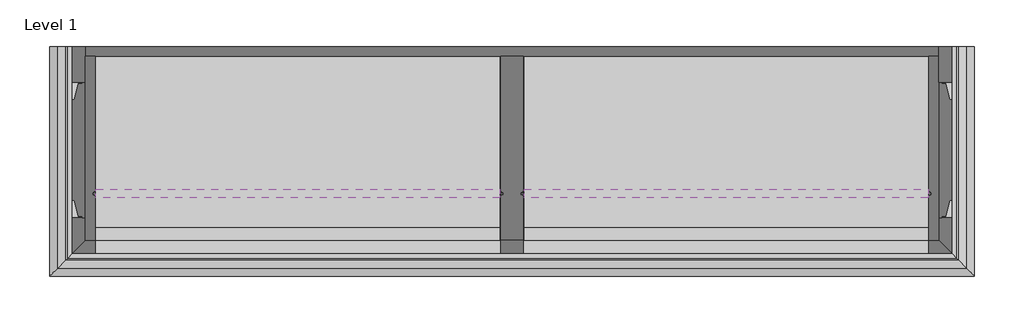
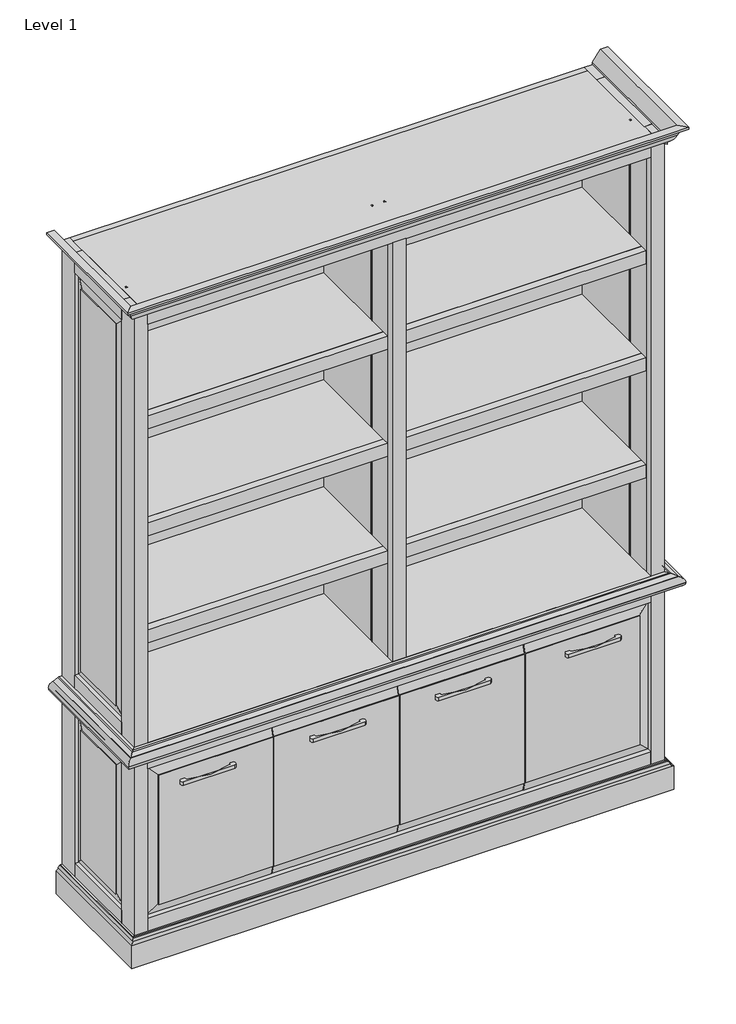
# One storey: 15 proxies.
"""IFC4 building model written with IfcOpenShell, lengths in millimetres."""

from ifc_helpers import new_model, si_unit, origin, place, context, project, spatial, transform, mapped, element, save
from components import generic_models_70161fbd, generic_models_68b85fac, generic_models_5fe2147b, generic_models_7eb4e70c

model = new_model("IFC4")

# Units and contexts
model_context = context("Model", 3, world=origin())
ifc_project = project(units=[si_unit("LENGTHUNIT", "METRE", prefix="MILLI")], contexts=[model_context])

# Site, building, storey
site = spatial("IfcSite", under=ifc_project)
building = spatial("IfcBuilding", under=site)
storey = spatial("IfcBuildingStorey", under=building, Name="Level 1", Elevation=0.0)

# Proxies
placement = place(None, origin())
generic_models_shape = generic_models_70161fbd(model_context)
element("IfcBuildingElementProxy", 1, Name="HAFELE^BUS BAR LIGHT_ALUMINUM EXTRUSION-LIGHT BAR (MOD LENGTH 31.25)", ObjectType="HAFELE^BUS BAR LIGHT_ALUMINUM EXTRUSION-LIGHT BAR (MOD LENGTH 31.25)", at=placement, inside=storey, context=model_context, shape_type="MappedRepresentation", body=[
    mapped(generic_models_shape, transform((839.7875, -297.425, 1454.15), x_axis=(0.0, 1.0, 0.0), y_axis=(-1.0, 0.0, 0.0), z_axis=(0.0, 0.0, 1.0))),
])
element("IfcBuildingElementProxy", 2, Name="HAFELE^BUS BAR LIGHT_ALUMINUM EXTRUSION-LIGHT BAR (MOD LENGTH 31.25)", ObjectType="HAFELE^BUS BAR LIGHT_ALUMINUM EXTRUSION-LIGHT BAR (MOD LENGTH 31.25)", at=placement, inside=storey, context=model_context, shape_type="MappedRepresentation", body=[
    mapped(generic_models_shape, transform((1681.1625, -297.425, 1454.15), x_axis=(0.0, 1.0, 0.0), y_axis=(-1.0, 0.0, 0.0), z_axis=(0.0, 0.0, 1.0))),
])
element("IfcBuildingElementProxy", 3, Name="HAFELE^BUS BAR LIGHT_ALUMINUM EXTRUSION-LIGHT BAR (MOD LENGTH 31.25)", ObjectType="HAFELE^BUS BAR LIGHT_ALUMINUM EXTRUSION-LIGHT BAR (MOD LENGTH 31.25)", at=placement, inside=storey, context=model_context, shape_type="MappedRepresentation", body=[
    mapped(generic_models_shape, transform((1681.1625, -297.425, 1822.45), x_axis=(0.0, 1.0, 0.0), y_axis=(-1.0, 0.0, 0.0), z_axis=(0.0, 0.0, 1.0))),
])
element("IfcBuildingElementProxy", 4, Name="HAFELE^BUS BAR LIGHT_ALUMINUM EXTRUSION-LIGHT BAR (MOD LENGTH 31.25)", ObjectType="HAFELE^BUS BAR LIGHT_ALUMINUM EXTRUSION-LIGHT BAR (MOD LENGTH 31.25)", at=placement, inside=storey, context=model_context, shape_type="MappedRepresentation", body=[
    mapped(generic_models_shape, transform((1681.1625, -297.425, 1085.85), x_axis=(0.0, 1.0, 0.0), y_axis=(-1.0, 0.0, 0.0), z_axis=(0.0, 0.0, 1.0))),
])
element("IfcBuildingElementProxy", 5, Name="HAFELE^BUS BAR LIGHT_ALUMINUM EXTRUSION-LIGHT BAR (MOD LENGTH 31.25)", ObjectType="HAFELE^BUS BAR LIGHT_ALUMINUM EXTRUSION-LIGHT BAR (MOD LENGTH 31.25)", at=placement, inside=storey, context=model_context, shape_type="MappedRepresentation", body=[
    mapped(generic_models_shape, transform((839.7875, -297.425, 1822.45), x_axis=(0.0, 1.0, 0.0), y_axis=(-1.0, 0.0, 0.0), z_axis=(0.0, 0.0, 1.0))),
])
element("IfcBuildingElementProxy", 6, Name="HAFELE^BUS BAR LIGHT_ALUMINUM EXTRUSION-LIGHT BAR (MOD LENGTH 31.25)", ObjectType="HAFELE^BUS BAR LIGHT_ALUMINUM EXTRUSION-LIGHT BAR (MOD LENGTH 31.25)", at=placement, inside=storey, context=model_context, shape_type="MappedRepresentation", body=[
    mapped(generic_models_shape, transform((839.7875, -297.425, 1085.85), x_axis=(0.0, 1.0, 0.0), y_axis=(-1.0, 0.0, 0.0), z_axis=(0.0, 0.0, 1.0))),
])
generic_models_2_shape = generic_models_68b85fac(model_context)
element("IfcBuildingElementProxy", 7, Name="CAMBRIDGE^STORAGE 1_2 DOOR 3 SHELVES-PARTS SOLID", ObjectType="CAMBRIDGE^STORAGE 1_2 DOOR 3 SHELVES-PARTS SOLID", at=placement, inside=storey, context=model_context, shape_type="MappedRepresentation", body=[
    mapped(generic_models_2_shape, transform((25.4, 0.0, 0.0), x_axis=(1.0, 0.0, 0.0), y_axis=(0.0, 0.0, 1.0), z_axis=(0.0, -1.0, 0.0))),
])
generic_models_3_shape = generic_models_5fe2147b(model_context)
element("IfcBuildingElementProxy", 8, Name="ART DECCO^GLAM-HAFELE 110_34_286", ObjectType="ART DECCO^GLAM-HAFELE 110_34_286", at=placement, inside=storey, context=model_context, shape_type="MappedRepresentation", body=[
    mapped(generic_models_3_shape, transform((146.5375, -406.4, 580.675), x_axis=(1.0, 0.0, 0.0), y_axis=(0.0, 0.0, -1.0), z_axis=(0.0, 1.0, 0.0))),
])
element("IfcBuildingElementProxy", 9, Name="ART DECCO^GLAM-HAFELE 110_34_286", ObjectType="ART DECCO^GLAM-HAFELE 110_34_286", at=placement, inside=storey, context=model_context, shape_type="MappedRepresentation", body=[
    mapped(generic_models_3_shape, transform((569.209375, -406.4, 580.675), x_axis=(1.0, 0.0, 0.0), y_axis=(0.0, 0.0, -1.0), z_axis=(0.0, 1.0, 0.0))),
])
element("IfcBuildingElementProxy", 10, Name="ART DECCO^GLAM-HAFELE 110_34_286", ObjectType="ART DECCO^GLAM-HAFELE 110_34_286", at=placement, inside=storey, context=model_context, shape_type="MappedRepresentation", body=[
    mapped(generic_models_3_shape, transform((977.990625, -406.4, 580.675), x_axis=(1.0, 0.0, 0.0), y_axis=(0.0, 0.0, -1.0), z_axis=(0.0, 1.0, 0.0))),
])
element("IfcBuildingElementProxy", 11, Name="ART DECCO^GLAM-HAFELE 110_34_286", ObjectType="ART DECCO^GLAM-HAFELE 110_34_286", at=placement, inside=storey, context=model_context, shape_type="MappedRepresentation", body=[
    mapped(generic_models_3_shape, transform((1400.6625, -406.4, 580.675), x_axis=(1.0, 0.0, 0.0), y_axis=(0.0, 0.0, -1.0), z_axis=(0.0, 1.0, 0.0))),
])
generic_models_4_shape = generic_models_7eb4e70c(model_context)
element("IfcBuildingElementProxy", 12, Name="HAFELE^BUS BAR_ALUMINUM-BUS BAR (MOD LENGTH 59)", ObjectType="HAFELE^BUS BAR_ALUMINUM-BUS BAR (MOD LENGTH 59)", at=placement, inside=storey, context=model_context, shape_type="MappedRepresentation", body=[
    mapped(generic_models_4_shape, transform((1682.75, -292.1, 742.95), x_axis=(0.0, 1.0, 0.0), y_axis=(0.0, 0.0, 1.0), z_axis=(1.0, 0.0, 0.0))),
])
element("IfcBuildingElementProxy", 13, Name="HAFELE^BUS BAR_ALUMINUM-BUS BAR (MOD LENGTH 59)", ObjectType="HAFELE^BUS BAR_ALUMINUM-BUS BAR (MOD LENGTH 59)", at=placement, inside=storey, context=model_context, shape_type="MappedRepresentation", body=[
    mapped(generic_models_4_shape, transform((841.375, -292.1, 742.95), x_axis=(0.0, 1.0, 0.0), y_axis=(0.0, 0.0, 1.0), z_axis=(1.0, 0.0, 0.0))),
])
element("IfcBuildingElementProxy", 14, Name="HAFELE^BUS BAR_ALUMINUM-BUS BAR (MOD LENGTH 59)", ObjectType="HAFELE^BUS BAR_ALUMINUM-BUS BAR (MOD LENGTH 59)", at=placement, inside=storey, context=model_context, shape_type="MappedRepresentation", body=[
    mapped(generic_models_4_shape, transform((44.45, -285.75, 742.95), x_axis=(0.0, -1.0, 0.0), y_axis=(0.0, 0.0, 1.0), z_axis=(-1.0, 0.0, 0.0))),
])
element("IfcBuildingElementProxy", 15, Name="HAFELE^BUS BAR_ALUMINUM-BUS BAR (MOD LENGTH 59)", ObjectType="HAFELE^BUS BAR_ALUMINUM-BUS BAR (MOD LENGTH 59)", at=placement, inside=storey, context=model_context, shape_type="MappedRepresentation", body=[
    mapped(generic_models_4_shape, transform((885.825, -285.75, 742.95), x_axis=(0.0, -1.0, 0.0), y_axis=(0.0, 0.0, 1.0), z_axis=(-1.0, 0.0, 0.0))),
])

save(model, "model.ifc")
